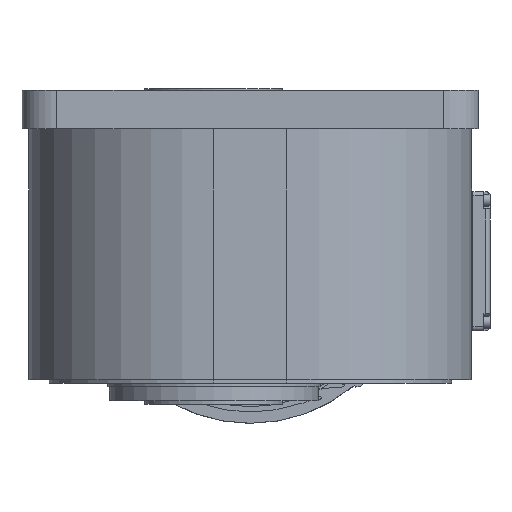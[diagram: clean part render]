
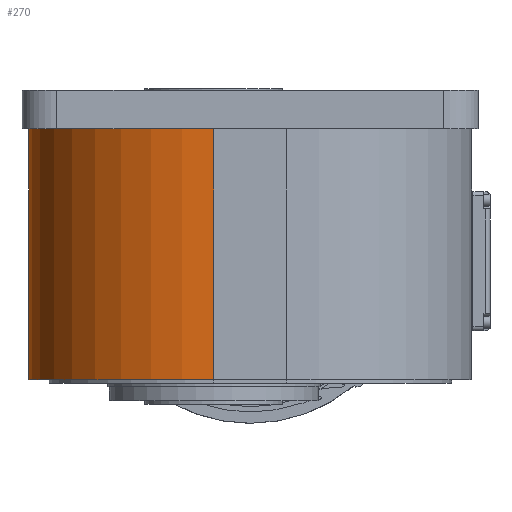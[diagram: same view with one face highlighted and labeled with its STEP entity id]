
A CAD part, left-side view. The second image highlights one B-rep face of the part: STEP entity #270.
In plain terms, the highlighted cylindrical face has radius 106 mm (diameter 212 mm), a partial arc.
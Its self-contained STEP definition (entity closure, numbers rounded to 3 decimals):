
#270 = ADVANCED_FACE( '', ( #1224 ), #1225, .T. );
#1224 = FACE_OUTER_BOUND( '', #3165, .T. );
#1225 = CYLINDRICAL_SURFACE( '', #3166, 106. );
#3165 = EDGE_LOOP( '', ( #5422, #5423, #5424, #5425 ) );
#3166 = AXIS2_PLACEMENT_3D( '', #5426, #5427, #5428 );
#5422 = ORIENTED_EDGE( '', *, *, #12750, .F. );
#5423 = ORIENTED_EDGE( '', *, *, #12817, .F. );
#5424 = ORIENTED_EDGE( '', *, *, #12808, .T. );
#5425 = ORIENTED_EDGE( '', *, *, #12818, .T. );
#5426 = CARTESIAN_POINT( '', ( -166., 0., -2.32 ) );
#5427 = DIRECTION( '', ( -1., 0., 0. ) );
#5428 = DIRECTION( '', ( 0., 0., -1. ) );
#12750 = EDGE_CURVE( '', #15341, #15343, #15344, .T. );
#12808 = EDGE_CURVE( '', #15442, #15439, #15443, .T. );
#12817 = EDGE_CURVE( '', #15442, #15341, #15457, .T. );
#12818 = EDGE_CURVE( '', #15439, #15343, #15458, .T. );
#15341 = VERTEX_POINT( '', #19475 );
#15343 = VERTEX_POINT( '', #19478 );
#15344 = CIRCLE( '', #19479, 106. );
#15439 = VERTEX_POINT( '', #19613 );
#15442 = VERTEX_POINT( '', #19617 );
#15443 = CIRCLE( '', #19618, 106. );
#15457 = LINE( '', #19637, #19638 );
#15458 = LINE( '', #19639, #19640 );
#19475 = CARTESIAN_POINT( '', ( -22., 106., -2.32 ) );
#19478 = CARTESIAN_POINT( '', ( -22., 0., 103.68 ) );
#19479 = AXIS2_PLACEMENT_3D( '', #24976, #24977, #24978 );
#19613 = CARTESIAN_POINT( '', ( -166., 0., 103.68 ) );
#19617 = CARTESIAN_POINT( '', ( -166., 106., -2.32 ) );
#19618 = AXIS2_PLACEMENT_3D( '', #25070, #25071, #25072 );
#19637 = CARTESIAN_POINT( '', ( -166., 106., -2.32 ) );
#19638 = VECTOR( '', #25087, 1000. );
#19639 = CARTESIAN_POINT( '', ( -166., 0., 103.68 ) );
#19640 = VECTOR( '', #25088, 1000. );
#24976 = CARTESIAN_POINT( '', ( -22., 0., -2.32 ) );
#24977 = DIRECTION( '', ( 1., 0., 0. ) );
#24978 = DIRECTION( '', ( 0., 0., -1. ) );
#25070 = CARTESIAN_POINT( '', ( -166., 0., -2.32 ) );
#25071 = DIRECTION( '', ( 1., 0., 0. ) );
#25072 = DIRECTION( '', ( 0., 0., -1. ) );
#25087 = DIRECTION( '', ( 1., 0., 0. ) );
#25088 = DIRECTION( '', ( 1., 0., 0. ) );
